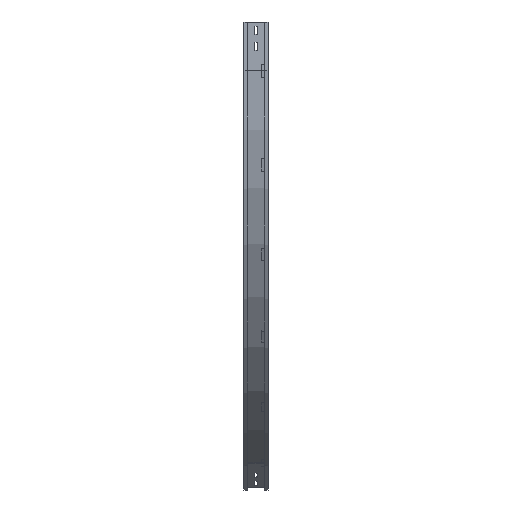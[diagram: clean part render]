
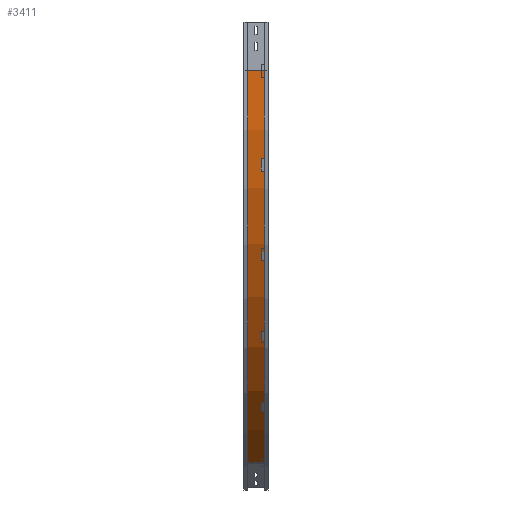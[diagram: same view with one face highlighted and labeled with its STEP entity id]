
A CAD part, left-side view. The second image highlights one B-rep face of the part: STEP entity #3411.
In plain terms, the highlighted cylindrical face has radius 1400 mm (diameter 2800 mm), a partial arc.
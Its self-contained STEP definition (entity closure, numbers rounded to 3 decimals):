
#37 = AXIS2_PLACEMENT_3D ( 'NONE', #2845, #2574, #2106 ) ;
#74 = VERTEX_POINT ( 'NONE', #262 ) ;
#144 = CARTESIAN_POINT ( 'NONE',  ( 709., 12., -1362.436 ) ) ;
#262 = CARTESIAN_POINT ( 'NONE',  ( 9., 12., -150. ) ) ;
#373 = EDGE_CURVE ( 'NONE', #3105, #74, #743, .T. ) ;
#472 = DIRECTION ( 'NONE',  ( 0., -1., 0. ) ) ;
#654 = AXIS2_PLACEMENT_3D ( 'NONE', #2940, #2717, #2674 ) ;
#691 = ORIENTED_EDGE ( 'NONE', *, *, #373, .F. ) ;
#743 = LINE ( 'NONE', #2850, #2697 ) ;
#800 = VERTEX_POINT ( 'NONE', #1145 ) ;
#984 = DIRECTION ( 'NONE',  ( 0., -1., 0. ) ) ;
#988 = LINE ( 'NONE', #144, #3260 ) ;
#1145 = CARTESIAN_POINT ( 'NONE',  ( 709., 63., -1362.436 ) ) ;
#1232 = DIRECTION ( 'NONE',  ( 0., -1., 0. ) ) ;
#1534 = DIRECTION ( 'NONE',  ( -1., 0., 0. ) ) ;
#1583 = ORIENTED_EDGE ( 'NONE', *, *, #2625, .T. ) ;
#1785 = ORIENTED_EDGE ( 'NONE', *, *, #1875, .T. ) ;
#1870 = CARTESIAN_POINT ( 'NONE',  ( 9., 63., -150. ) ) ;
#1875 = EDGE_CURVE ( 'NONE', #800, #2571, #988, .T. ) ;
#1937 = CIRCLE ( 'NONE', #3034, 1400. ) ;
#2106 = DIRECTION ( 'NONE',  ( 0., 0., -1. ) ) ;
#2126 = EDGE_LOOP ( 'NONE', ( #3062, #691, #1583, #1785 ) ) ;
#2161 = CIRCLE ( 'NONE', #654, 1400. ) ;
#2294 = CARTESIAN_POINT ( 'NONE',  ( 1409., 63., -150. ) ) ;
#2571 = VERTEX_POINT ( 'NONE', #2687 ) ;
#2574 = DIRECTION ( 'NONE',  ( 0., -1., 0. ) ) ;
#2604 = CYLINDRICAL_SURFACE ( 'NONE', #37, 1400. ) ;
#2625 = EDGE_CURVE ( 'NONE', #3105, #800, #1937, .T. ) ;
#2674 = DIRECTION ( 'NONE',  ( -1., 0., 0. ) ) ;
#2687 = CARTESIAN_POINT ( 'NONE',  ( 709., 12., -1362.436 ) ) ;
#2697 = VECTOR ( 'NONE', #472, 1000. ) ;
#2717 = DIRECTION ( 'NONE',  ( 0., -1., 0. ) ) ;
#2845 = CARTESIAN_POINT ( 'NONE',  ( 1409., 0., -150. ) ) ;
#2850 = CARTESIAN_POINT ( 'NONE',  ( 9., 12., -150. ) ) ;
#2858 = FACE_OUTER_BOUND ( 'NONE', #2126, .T. ) ;
#2862 = EDGE_CURVE ( 'NONE', #74, #2571, #2161, .T. ) ;
#2940 = CARTESIAN_POINT ( 'NONE',  ( 1409., 12., -150. ) ) ;
#3034 = AXIS2_PLACEMENT_3D ( 'NONE', #2294, #984, #1534 ) ;
#3062 = ORIENTED_EDGE ( 'NONE', *, *, #2862, .F. ) ;
#3105 = VERTEX_POINT ( 'NONE', #1870 ) ;
#3260 = VECTOR ( 'NONE', #1232, 1000. ) ;
#3411 = ADVANCED_FACE ( 'NONE', ( #2858 ), #2604, .T. ) ;
